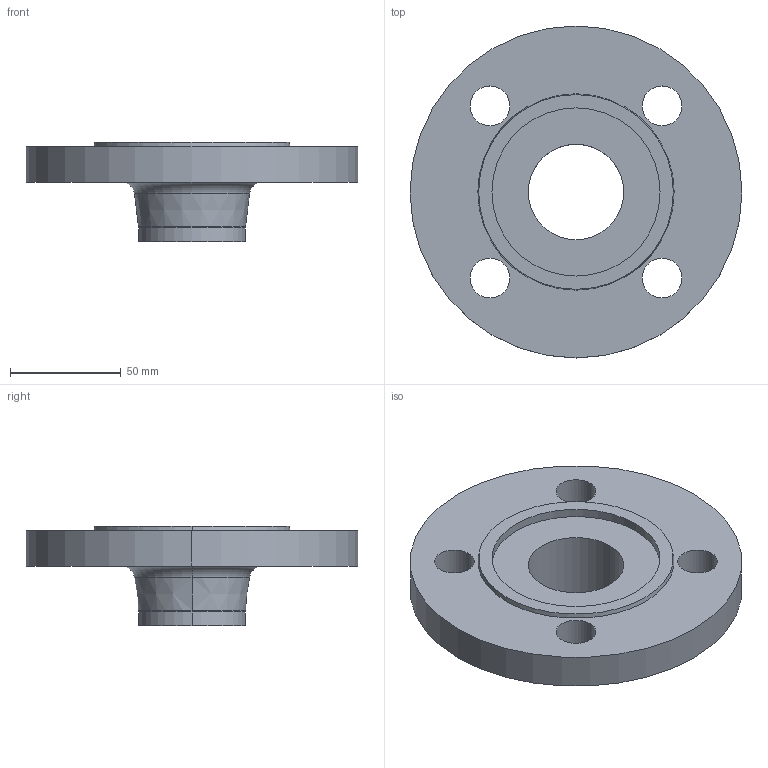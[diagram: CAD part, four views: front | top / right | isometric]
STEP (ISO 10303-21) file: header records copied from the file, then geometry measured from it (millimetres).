
FILE_DESCRIPTION (( 'STEP AP214' ), '1' );
FILE_NAME ('PN40 DN40 Type 11 - Type F Face.STEP', '2018-12-30T02:11:30', ( '' ), ( '' ), 'SwSTEP 2.0', 'SolidWorks 2019', '' );
FILE_SCHEMA (( 'AUTOMOTIVE_DESIGN' ));
Length unit declared in the file: millimetre
Products named in the file (1): PN40 DN40 Type 11 - Type F Face
Bounding box: 150 x 150 x 45 mm (x, y, z)
Volume: 255316 mm3; surface area: 52090.7 mm2
Topology: 1 solids, 1 shells, 29 faces, 66 edges, 42 vertices
Faces by surface type: cylinder 16, plane 5, torus 4, cone 4
Entity records: 892 total; most frequent: DIRECTION 172, CARTESIAN_POINT 138, ORIENTED_EDGE 132, AXIS2_PLACEMENT_3D 76, EDGE_CURVE 66, CIRCLE 46, EDGE_LOOP 42, VERTEX_POINT 42
